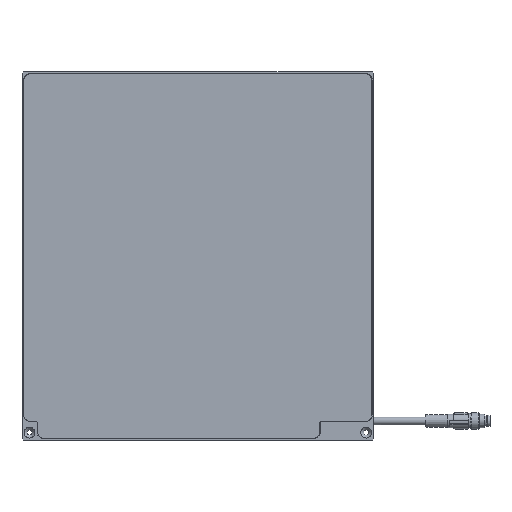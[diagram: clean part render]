
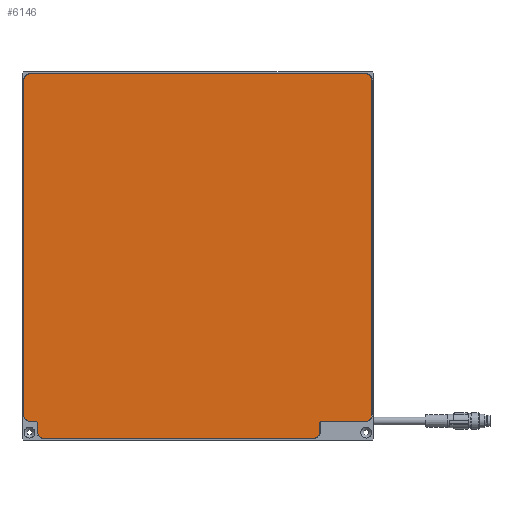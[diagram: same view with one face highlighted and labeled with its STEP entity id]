
A CAD part, top view. The second image highlights one B-rep face of the part: STEP entity #6146.
In plain terms, the highlighted planar face has unit normal (0, 0, 1).
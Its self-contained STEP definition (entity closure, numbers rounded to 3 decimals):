
#171=CIRCLE('',#8880,4.1);
#172=CIRCLE('',#8881,4.1);
#173=CIRCLE('',#8882,4.1);
#174=CIRCLE('',#8883,4.1);
#175=CIRCLE('',#8884,4.1);
#176=CIRCLE('',#8885,4.1);
#376=ORIENTED_EDGE('',*,*,#2146,.F.);
#377=ORIENTED_EDGE('',*,*,#2156,.T.);
#378=ORIENTED_EDGE('',*,*,#2142,.F.);
#379=ORIENTED_EDGE('',*,*,#2157,.T.);
#380=ORIENTED_EDGE('',*,*,#2134,.F.);
#381=ORIENTED_EDGE('',*,*,#2158,.T.);
#382=ORIENTED_EDGE('',*,*,#2133,.F.);
#383=ORIENTED_EDGE('',*,*,#2159,.T.);
#384=ORIENTED_EDGE('',*,*,#2129,.F.);
#385=ORIENTED_EDGE('',*,*,#2160,.T.);
#386=ORIENTED_EDGE('',*,*,#2125,.F.);
#387=ORIENTED_EDGE('',*,*,#2161,.T.);
#388=ORIENTED_EDGE('',*,*,#2155,.F.);
#389=ORIENTED_EDGE('',*,*,#2162,.T.);
#390=ORIENTED_EDGE('',*,*,#2147,.F.);
#391=ORIENTED_EDGE('',*,*,#2163,.T.);
#2125=EDGE_CURVE('',#3018,#3015,#3629,.T.);
#2129=EDGE_CURVE('',#3022,#3019,#3633,.T.);
#2133=EDGE_CURVE('',#3026,#3023,#3637,.T.);
#2134=EDGE_CURVE('',#3027,#3028,#3638,.T.);
#2142=EDGE_CURVE('',#3033,#3031,#3646,.T.);
#2146=EDGE_CURVE('',#3037,#3034,#3650,.T.);
#2147=EDGE_CURVE('',#3038,#3039,#3651,.T.);
#2155=EDGE_CURVE('',#3044,#3042,#3659,.T.);
#2156=EDGE_CURVE('',#3037,#3031,#171,.F.);
#2157=EDGE_CURVE('',#3033,#3028,#3660,.F.);
#2158=EDGE_CURVE('',#3027,#3023,#172,.F.);
#2159=EDGE_CURVE('',#3026,#3019,#173,.F.);
#2160=EDGE_CURVE('',#3022,#3015,#174,.F.);
#2161=EDGE_CURVE('',#3018,#3042,#175,.F.);
#2162=EDGE_CURVE('',#3044,#3039,#3661,.F.);
#2163=EDGE_CURVE('',#3038,#3034,#176,.F.);
#3015=VERTEX_POINT('',#11079);
#3018=VERTEX_POINT('',#11084);
#3019=VERTEX_POINT('',#11088);
#3022=VERTEX_POINT('',#11093);
#3023=VERTEX_POINT('',#11097);
#3026=VERTEX_POINT('',#11102);
#3027=VERTEX_POINT('',#11106);
#3028=VERTEX_POINT('',#11107);
#3031=VERTEX_POINT('',#11116);
#3033=VERTEX_POINT('',#11120);
#3034=VERTEX_POINT('',#11124);
#3037=VERTEX_POINT('',#11129);
#3038=VERTEX_POINT('',#11133);
#3039=VERTEX_POINT('',#11134);
#3042=VERTEX_POINT('',#11143);
#3044=VERTEX_POINT('',#11147);
#3629=LINE('',#11085,#4305);
#3633=LINE('',#11094,#4309);
#3637=LINE('',#11103,#4313);
#3638=LINE('',#11105,#4314);
#3646=LINE('',#11121,#4322);
#3650=LINE('',#11130,#4326);
#3651=LINE('',#11132,#4327);
#3659=LINE('',#11148,#4335);
#3660=LINE('',#11151,#4336);
#3661=LINE('',#11156,#4337);
#4305=VECTOR('',#9391,1000.);
#4309=VECTOR('',#9397,1000.);
#4313=VECTOR('',#9403,1000.);
#4314=VECTOR('',#9406,1000.);
#4322=VECTOR('',#9416,1000.);
#4326=VECTOR('',#9422,1000.);
#4327=VECTOR('',#9425,1000.);
#4335=VECTOR('',#9435,1000.);
#4336=VECTOR('',#9440,1000.);
#4337=VECTOR('',#9449,1000.);
#4982=EDGE_LOOP('',(#376,#377,#378,#379,#380,#381,#382,#383,#384,#385,#386,
#387,#388,#389,#390,#391));
#5432=FACE_BOUND('',#4982,.T.);
#5882=PLANE('',#8879);
#6146=ADVANCED_FACE('',(#5432),#5882,.F.);
#8879=AXIS2_PLACEMENT_3D('',#11149,#9436,#9437);
#8880=AXIS2_PLACEMENT_3D('',#11150,#9438,#9439);
#8881=AXIS2_PLACEMENT_3D('',#11152,#9441,#9442);
#8882=AXIS2_PLACEMENT_3D('',#11153,#9443,#9444);
#8883=AXIS2_PLACEMENT_3D('',#11154,#9445,#9446);
#8884=AXIS2_PLACEMENT_3D('',#11155,#9447,#9448);
#8885=AXIS2_PLACEMENT_3D('',#11157,#9450,#9451);
#9391=DIRECTION('',(0.,1.,0.));
#9397=DIRECTION('',(1.,0.,0.));
#9403=DIRECTION('',(0.,-1.,0.));
#9406=DIRECTION('',(-1.,0.,0.));
#9416=DIRECTION('',(0.,-1.,0.));
#9422=DIRECTION('',(-1.,0.,0.));
#9425=DIRECTION('',(0.,1.,0.));
#9435=DIRECTION('',(-1.,0.,0.));
#9436=DIRECTION('',(0.,0.,-1.));
#9437=DIRECTION('',(-1.,0.,0.));
#9438=DIRECTION('',(0.,0.,-1.));
#9439=DIRECTION('',(-1.,0.,0.));
#9440=DIRECTION('',(-0.707,-0.707,0.));
#9441=DIRECTION('',(0.,0.,-1.));
#9442=DIRECTION('',(-1.,0.,0.));
#9443=DIRECTION('',(0.,0.,-1.));
#9444=DIRECTION('',(-1.,0.,0.));
#9445=DIRECTION('',(0.,0.,-1.));
#9446=DIRECTION('',(-1.,0.,0.));
#9447=DIRECTION('',(0.,0.,-1.));
#9448=DIRECTION('',(-1.,0.,0.));
#9449=DIRECTION('',(-0.707,0.707,0.));
#9450=DIRECTION('',(0.,0.,-1.));
#9451=DIRECTION('',(-1.,0.,0.));
#11079=CARTESIAN_POINT('',(-104.4,100.1,0.));
#11084=CARTESIAN_POINT('',(-104.4,-100.3,0.));
#11085=CARTESIAN_POINT('',(-104.4,-104.4,0.));
#11088=CARTESIAN_POINT('',(100.1,104.2,0.));
#11093=CARTESIAN_POINT('',(-100.3,104.2,0.));
#11094=CARTESIAN_POINT('',(-104.4,104.2,0.));
#11097=CARTESIAN_POINT('',(104.2,-100.3,0.));
#11102=CARTESIAN_POINT('',(104.2,100.1,0.));
#11103=CARTESIAN_POINT('',(104.2,104.2,0.));
#11105=CARTESIAN_POINT('',(73.2,-104.4,0.));
#11106=CARTESIAN_POINT('',(100.1,-104.4,0.));
#11107=CARTESIAN_POINT('',(73.7,-104.4,0.));
#11116=CARTESIAN_POINT('',(73.2,-110.3,0.));
#11120=CARTESIAN_POINT('',(73.2,-104.9,0.));
#11121=CARTESIAN_POINT('',(73.2,-114.4,0.));
#11124=CARTESIAN_POINT('',(-92.3,-114.4,0.));
#11129=CARTESIAN_POINT('',(69.1,-114.4,0.));
#11130=CARTESIAN_POINT('',(73.2,-114.4,0.));
#11132=CARTESIAN_POINT('',(-96.4,-114.4,0.));
#11133=CARTESIAN_POINT('',(-96.4,-110.3,0.));
#11134=CARTESIAN_POINT('',(-96.4,-104.9,0.));
#11143=CARTESIAN_POINT('',(-100.3,-104.4,0.));
#11147=CARTESIAN_POINT('',(-96.9,-104.4,0.));
#11148=CARTESIAN_POINT('',(-96.4,-104.4,0.));
#11149=CARTESIAN_POINT('',(-0.1,-9.644,0.));
#11150=CARTESIAN_POINT('',(69.1,-110.3,0.));
#11151=CARTESIAN_POINT('',(84.178,-93.922,0.));
#11152=CARTESIAN_POINT('',(100.1,-100.3,0.));
#11153=CARTESIAN_POINT('',(100.1,100.1,0.));
#11154=CARTESIAN_POINT('',(-100.3,100.1,0.));
#11155=CARTESIAN_POINT('',(-100.3,-100.3,0.));
#11156=CARTESIAN_POINT('',(-95.878,-105.422,0.));
#11157=CARTESIAN_POINT('',(-92.3,-110.3,0.));
